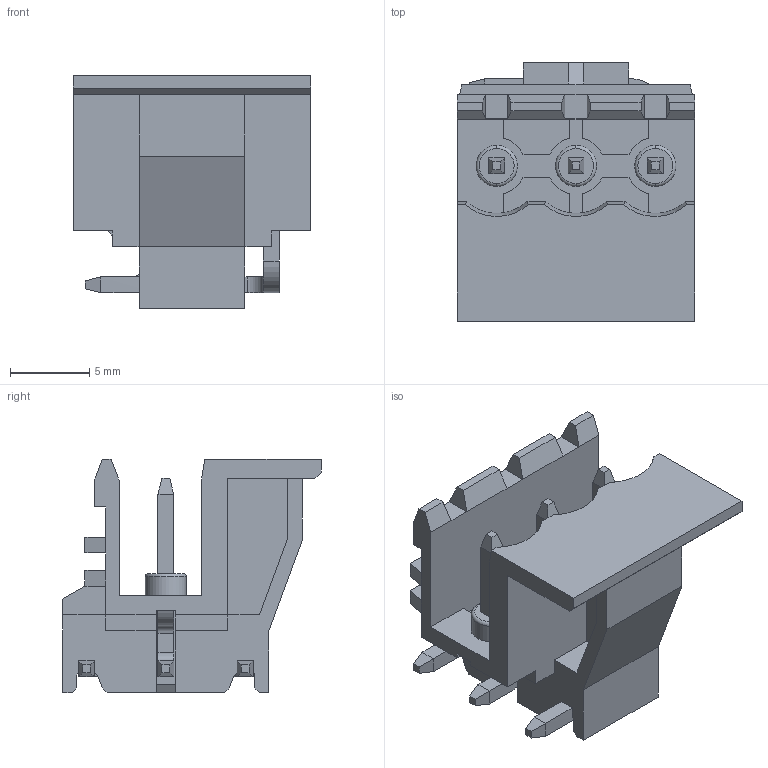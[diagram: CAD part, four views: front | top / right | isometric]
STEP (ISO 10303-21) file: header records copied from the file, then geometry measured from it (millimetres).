
FILE_DESCRIPTION(('FreeCAD Model'),'2;1');
FILE_NAME('Open CASCADE Shape Model','2023-04-26T12:00:38',('Author'),( ''),'Open CASCADE STEP processor 7.6','FreeCAD','Unknown');
FILE_SCHEMA(('AUTOMOTIVE_DESIGN { 1 0 10303 214 1 1 1 1 }'));
Length unit declared in the file: millimetre
Products named in the file (1): BR1703-PE
Bounding box: 15 x 16.3 x 14.7 mm (x, y, z)
Volume: 981.7 mm3; surface area: 2062.7 mm2
Topology: 1 solids, 2 shells, 302 faces, 826 edges, 529 vertices
Faces by surface type: plane 262, cylinder 31, torus 6, cone 3
Entity records: 20254 total; most frequent: CARTESIAN_POINT 3585, DIRECTION 3110, LINE 2304, VECTOR 2304, ORIENTED_EDGE 1652, PCURVE 1652, DEFINITIONAL_REPRESENTATION 1652, EDGE_CURVE 826
